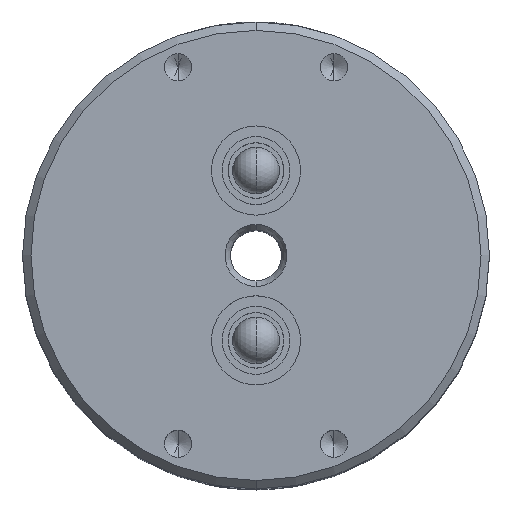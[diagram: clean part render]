
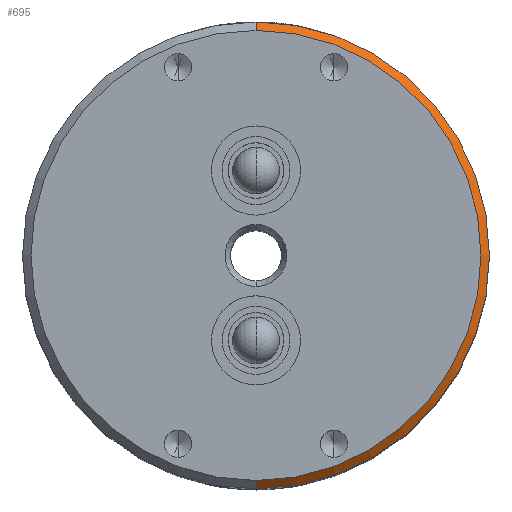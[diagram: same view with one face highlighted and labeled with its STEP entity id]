
A CAD part, top view. The second image highlights one B-rep face of the part: STEP entity #695.
In plain terms, the highlighted conical face has half-angle 45 degrees and reference radius 43.65 mm.
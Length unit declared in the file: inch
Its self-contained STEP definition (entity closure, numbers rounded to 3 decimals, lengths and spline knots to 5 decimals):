
#515 = EDGE_CURVE ( 'NONE', #2462, #2544, #6545, .T. ) ;
#517 = EDGE_CURVE ( 'NONE', #2544, #2542, #4872, .T. ) ;
#519 = EDGE_CURVE ( 'NONE', #2578, #2542, #6561, .T. ) ;
#521 = EDGE_CURVE ( 'NONE', #2578, #2462, #4886, .T. ) ;
#695 = ADVANCED_FACE ( 'NONE', ( #1235 ), #5204, .T. ) ;
#1233 = DIRECTION ( 'NONE',  ( 0., 0., -1. ) ) ;
#1234 = CARTESIAN_POINT ( 'NONE',  ( 0., 4.562, 0. ) ) ;
#1235 = FACE_OUTER_BOUND ( 'NONE', #2388, .T. ) ;
#1236 = DIRECTION ( 'NONE',  ( 0., -1., 0. ) ) ;
#2388 = EDGE_LOOP ( 'NONE', ( #2783, #2782, #2781, #2780 ) ) ;
#2462 = VERTEX_POINT ( 'NONE', #2991 ) ;
#2542 = VERTEX_POINT ( 'NONE', #3067 ) ;
#2544 = VERTEX_POINT ( 'NONE', #3069 ) ;
#2578 = VERTEX_POINT ( 'NONE', #3103 ) ;
#2780 = ORIENTED_EDGE ( 'NONE', *, *, #515, .F. ) ;
#2781 = ORIENTED_EDGE ( 'NONE', *, *, #517, .F. ) ;
#2782 = ORIENTED_EDGE ( 'NONE', *, *, #519, .T. ) ;
#2783 = ORIENTED_EDGE ( 'NONE', *, *, #521, .F. ) ;
#2991 = CARTESIAN_POINT ( 'NONE',  ( 0., 4.624, -1.6565 ) ) ;
#3067 = CARTESIAN_POINT ( 'NONE',  ( 0., 4.562, 1.7185 ) ) ;
#3069 = CARTESIAN_POINT ( 'NONE',  ( 0., 4.562, -1.7185 ) ) ;
#3103 = CARTESIAN_POINT ( 'NONE',  ( 0., 4.624, 1.6565 ) ) ;
#4870 = VECTOR ( 'NONE', #6557, 39.37008 ) ;
#4872 = CIRCLE ( 'NONE', #4880, 1.7185 ) ;
#4877 = VECTOR ( 'NONE', #6569, 39.37008 ) ;
#4880 = AXIS2_PLACEMENT_3D ( 'NONE', #6563, #6564, #6565 ) ;
#4886 = CIRCLE ( 'NONE', #4889, 1.6565 ) ;
#4889 = AXIS2_PLACEMENT_3D ( 'NONE', #6575, #6576, #6577 ) ;
#5204 = CONICAL_SURFACE ( 'NONE', #5205, 1.7185, 0.785 ) ;
#5205 = AXIS2_PLACEMENT_3D ( 'NONE', #1234, #1236, #1233 ) ;
#6545 = LINE ( 'NONE', #6550, #4870 ) ;
#6550 = CARTESIAN_POINT ( 'NONE',  ( 0., 4.562, -1.7185 ) ) ;
#6557 = DIRECTION ( 'NONE',  ( 0., -0.707, -0.707 ) ) ;
#6561 = LINE ( 'NONE', #6562, #4877 ) ;
#6562 = CARTESIAN_POINT ( 'NONE',  ( 0., 4.562, 1.7185 ) ) ;
#6563 = CARTESIAN_POINT ( 'NONE',  ( 0., 4.562, 0. ) ) ;
#6564 = DIRECTION ( 'NONE',  ( 0., -1., 0. ) ) ;
#6565 = DIRECTION ( 'NONE',  ( 0., 0., 1. ) ) ;
#6569 = DIRECTION ( 'NONE',  ( 0., -0.707, 0.707 ) ) ;
#6575 = CARTESIAN_POINT ( 'NONE',  ( 0., 4.624, 0. ) ) ;
#6576 = DIRECTION ( 'NONE',  ( 0., 1., 0. ) ) ;
#6577 = DIRECTION ( 'NONE',  ( 0., 0., 1. ) ) ;
